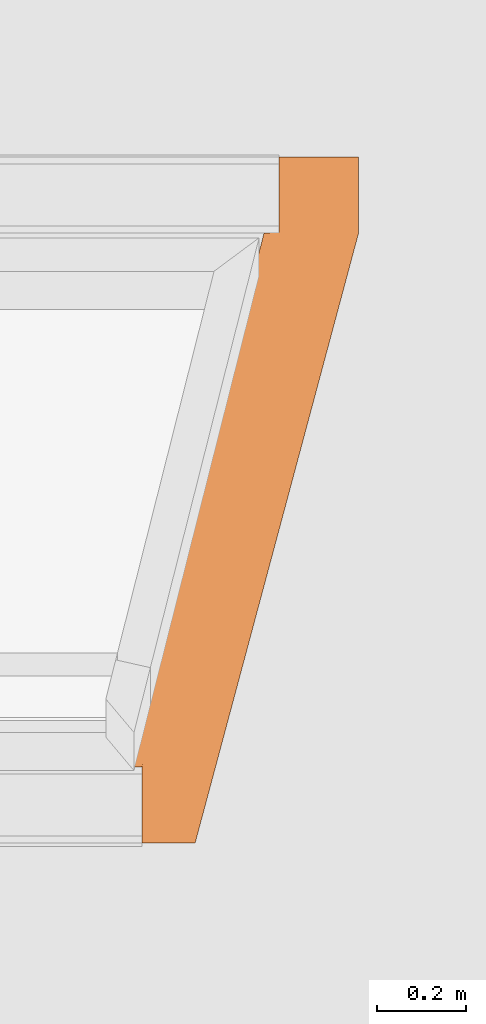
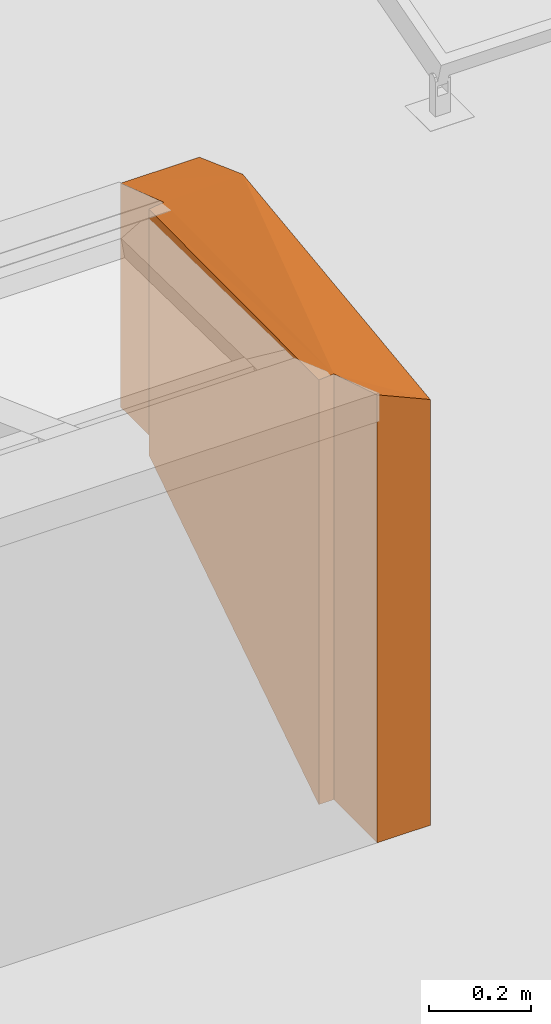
# One storey, part 19 of 20: 1 proxy.
"""IFC2X3 building model written with IfcOpenShell, lengths in millimetres."""

from ifc_helpers import new_model, entity, si_unit, converted_unit, derived_unit, money_unit, direction, frame, origin_with_axes, place, context, subcontext, project, spatial, faceted_brep, source, transform, mapped, material, type_object, type_shapes, element, save


model = new_model("IFC2X3")

# Units and contexts
model_context = context("Model", 3, precision=0.01, world=origin_with_axes(), true_north=direction((0.0, 1.0)))
plan_context = context("Plan", 3, precision=0.01, world=origin_with_axes(), true_north=direction((0.0, 1.0)))
body_context = subcontext(model_context, "Body", "Model", "MODEL_VIEW")
ifc_project = project(units=[si_unit("LENGTHUNIT", "METRE", prefix="MILLI"), si_unit("AREAUNIT", "SQUARE_METRE"), si_unit("VOLUMEUNIT", "CUBIC_METRE"), converted_unit("PLANEANGLEUNIT", "DEGREE", entity("IfcPlaneAngleMeasure", 0.0174532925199), si_unit("PLANEANGLEUNIT", "RADIAN"), dimensions=[0, 0, 0, 0, 0, 0, 0]), si_unit("SOLIDANGLEUNIT", "STERADIAN"), money_unit("EUR"), converted_unit("TIMEUNIT", "Year", entity("IfcTimeMeasure", 31556926.0), si_unit("TIMEUNIT", "SECOND"), dimensions=[0, 0, 1, 0, 0, 0, 0]), si_unit("MASSUNIT", "GRAM", prefix="KILO"), si_unit("THERMODYNAMICTEMPERATUREUNIT", "DEGREE_CELSIUS"), si_unit("LUMINOUSINTENSITYUNIT", "LUMEN"), si_unit("ENERGYUNIT", "JOULE", prefix="MEGA"), derived_unit("THERMALCONDUCTANCEUNIT", [(si_unit("POWERUNIT", "WATT"), 1), (si_unit("LENGTHUNIT", "METRE"), -1), (si_unit("THERMODYNAMICTEMPERATUREUNIT", "KELVIN"), -1)]), derived_unit("SPECIFICHEATCAPACITYUNIT", [(si_unit("ENERGYUNIT", "JOULE"), 1), (si_unit("MASSUNIT", "GRAM", prefix="KILO"), -1), (si_unit("THERMODYNAMICTEMPERATUREUNIT", "KELVIN"), -1)]), derived_unit("MASSDENSITYUNIT", [(si_unit("MASSUNIT", "GRAM", prefix="KILO"), 1), (si_unit("VOLUMEUNIT", "CUBIC_METRE"), -1)])], contexts=[model_context, plan_context])

# Site, building, storey
site_placement = place(None, origin_with_axes())
site = spatial("IfcSite", under=ifc_project, at=site_placement, Name="Site", CompositionType="ELEMENT")
building_placement = place(site_placement, origin_with_axes())
building = spatial("IfcBuilding", under=site, at=building_placement, Name="Naam gebouw", CompositionType="ELEMENT")
storey_placement = place(building_placement, frame((0.0, 0.0, 7920.0), z_axis=(0.0, 0.0, 1.0), x_axis=(1.0, 0.0, 0.0)))
storey = spatial("IfcBuildingStorey", under=building, at=storey_placement, Name="2e verdieping", CompositionType="ELEMENT", Elevation=7920.0)

# Proxy
ifc_material = material(Name="ALG - BINNENAFWERKING")
building_element_proxy_type = type_object("IfcBuildingElementProxyType", Name="ALG - BINNENAFWERKING", PredefinedType="USERDEFINED")
shared_shape = source(origin_with_axes(), body_context, "Body", "Brep", [
    faceted_brep([(-308.667905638, -1539.94574511, 0.0), (-308.667905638, -1539.94574511, 1070.97099805), (-308.667905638, -1369.95425439, 1017.68821331), (-308.667905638, -1369.95425439, 0.0), (-188.667905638, -1539.94574511, 0.0), (-188.667905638, -1539.94574511, 1017.68821331), (-342.612750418, -1369.95425439, 0.0), (-342.612750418, -1369.95425439, 1015.28052611), (-33.9566156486, -170.000015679, 0.0), (0.0, -170.000015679, 0.0), (0.0, 0.0, 0.0), (178.407946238, 0.0, 0.0), (178.407946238, -170.000015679, 0.0), (178.407946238, -170.000015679, 596.957869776), (-33.9566156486, -170.000015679, 587.840020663), (0.0, -169.459069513, 592.081900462), (0.0, 0.0, 534.743913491), (178.407946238, 0.0, 534.743913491)], [[[0, 1, 2, 3]], [[1, 0, 4, 5]], [[2, 1, 5]], [[6, 3, 2, 7]], [[4, 0, 3, 6, 8, 9, 10, 11, 12]], [[5, 4, 12, 13]], [[2, 5, 13]], [[7, 2, 14]], [[6, 7, 14, 8]], [[8, 14, 9]], [[9, 15, 16, 10]], [[10, 16, 17, 11]], [[13, 12, 11, 17]], [[15, 2, 13]], [[14, 2, 15]], [[15, 9, 14]], [[16, 15, 13]], [[13, 17, 16]]]),
])
type_shapes(building_element_proxy_type, [shared_shape])
proxy_placement = place(storey_placement, frame((22365.8799581, 25145.0000157, 245.0), z_axis=(0.0, 0.0, 1.0), x_axis=(1.0, 0.0, 0.0)))
element("IfcBuildingElementProxy", 1, at=proxy_placement, inside=storey, type_object=building_element_proxy_type, material=ifc_material, Name="_Massa_OMG Morph", ObjectType="Massing", context=body_context, shape_type="MappedRepresentation", body=[
    mapped(shared_shape, transform((0.0, 0.0, 0.0))),
])

save(model, "model.ifc")
